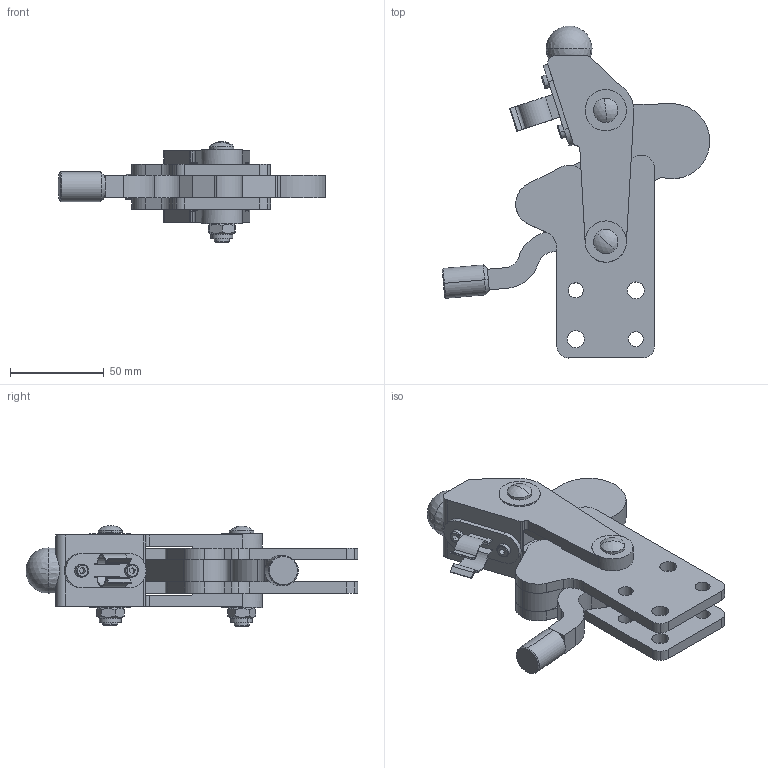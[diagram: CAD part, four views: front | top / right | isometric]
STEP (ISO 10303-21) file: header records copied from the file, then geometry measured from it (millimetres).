
FILE_DESCRIPTION((''),'2;1');
FILE_NAME('C:\Documents and Settings\clare\My Documents\STPS\M20-00-RM2.stp','2009-11-29T21:49:16',('clare'),(''),'Autodesk Inventor 8','Autodesk Inventor 8','');
FILE_SCHEMA(('AUTOMOTIVE_DESIGN { 1 0 10303 214 1 1 1 1 }'));
Length unit declared in the file: millimetre
Products named in the file (6): M20-00-RM2; M20-00-RM21; M20-00-RM22; M20-00-RM23; M20-00-RM24; M20-00-RM25
Assembly tree (5 placements, depth 2):
  M20-00-RM2
    M20-00-RM21
    M20-00-RM22
    M20-00-RM23
    M20-00-RM24
    M20-00-RM25
Bounding box: 142.6 x 176.91 x 53.77 mm (x, y, z)
Volume: 203523.9 mm3; surface area: 74047.2 mm2
Topology: 5 solids, 10 shells, 438 faces, 1122 edges, 720 vertices
Faces by surface type: plane 218, cylinder 137, bspline 49, cone 24, sphere 6, torus 4
Entity records: 14155 total; most frequent: CARTESIAN_POINT 3187, DIRECTION 2358, ORIENTED_EDGE 2230, EDGE_CURVE 1115, AXIS2_PLACEMENT_3D 869, VERTEX_POINT 719, VECTOR 620, LINE 620
